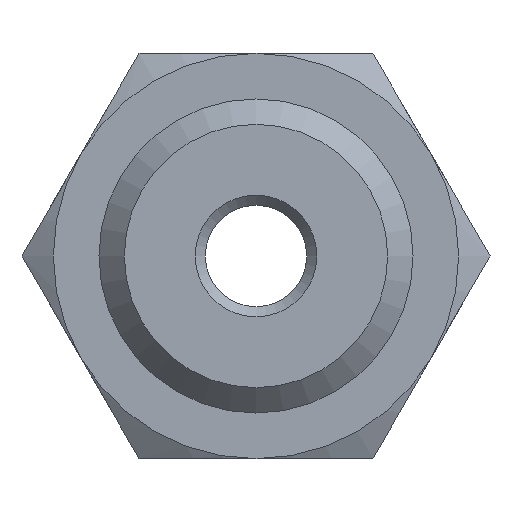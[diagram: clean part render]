
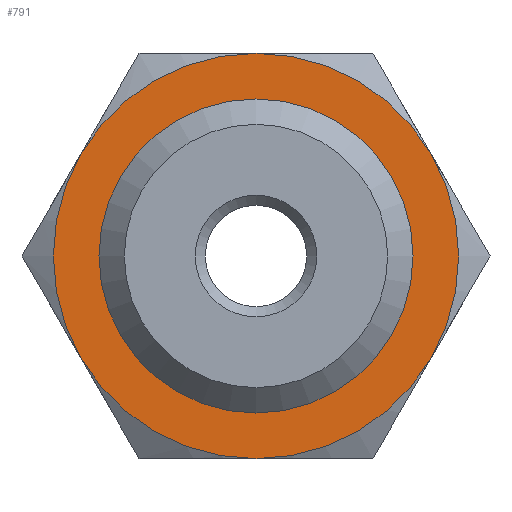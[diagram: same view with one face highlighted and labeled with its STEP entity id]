
A CAD part, front view. The second image highlights one B-rep face of the part: STEP entity #791.
In plain terms, the highlighted planar face has unit normal (0, -1, 0).
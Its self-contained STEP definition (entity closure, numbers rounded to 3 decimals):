
#74=CARTESIAN_POINT('',(-3.464,4.,2.0));
#75=VERTEX_POINT('',#74);
#149=CARTESIAN_POINT('',(0.,4.,4.));
#150=VERTEX_POINT('',#149);
#224=CARTESIAN_POINT('',(3.464,4.,2.));
#225=VERTEX_POINT('',#224);
#323=CARTESIAN_POINT('',(0.0,4.,-4.0));
#324=VERTEX_POINT('',#323);
#396=CARTESIAN_POINT('',(-3.464,4.,-2.));
#397=VERTEX_POINT('',#396);
#462=CARTESIAN_POINT('',(3.464,4.,-2.));
#463=VERTEX_POINT('',#462);
#603=CARTESIAN_POINT('',(0.0,4.,0.0));
#604=DIRECTION('',(0.0,1.0,0.0));
#605=DIRECTION('',(-1.0,0.0,0.0));
#606=AXIS2_PLACEMENT_3D('',#603,#604,#605);
#607=CIRCLE('',#606,4.);
#608=EDGE_CURVE('',#225,#463,#607,.T.);
#619=CARTESIAN_POINT('',(0.0,4.,0.0));
#620=DIRECTION('',(0.0,1.0,0.0));
#621=DIRECTION('',(-1.0,0.0,0.0));
#622=AXIS2_PLACEMENT_3D('',#619,#620,#621);
#623=CIRCLE('',#622,4.);
#624=EDGE_CURVE('',#150,#225,#623,.T.);
#637=CARTESIAN_POINT('',(0.0,4.,0.0));
#638=DIRECTION('',(0.0,1.0,0.0));
#639=DIRECTION('',(-1.0,0.0,0.0));
#640=AXIS2_PLACEMENT_3D('',#637,#638,#639);
#641=CIRCLE('',#640,4.);
#642=EDGE_CURVE('',#463,#324,#641,.T.);
#653=CARTESIAN_POINT('',(0.0,4.,0.0));
#654=DIRECTION('',(0.0,1.0,0.0));
#655=DIRECTION('',(-1.0,0.0,0.0));
#656=AXIS2_PLACEMENT_3D('',#653,#654,#655);
#657=CIRCLE('',#656,4.);
#658=EDGE_CURVE('',#75,#150,#657,.T.);
#671=CARTESIAN_POINT('',(0.0,4.,0.0));
#672=DIRECTION('',(0.0,1.0,0.0));
#673=DIRECTION('',(-1.0,0.0,0.0));
#674=AXIS2_PLACEMENT_3D('',#671,#672,#673);
#675=CIRCLE('',#674,4.);
#676=EDGE_CURVE('',#324,#397,#675,.T.);
#754=CARTESIAN_POINT('',(-2.,4.,0.0));
#755=VERTEX_POINT('',#754);
#756=CARTESIAN_POINT('',(0.0,4.,0.0));
#757=DIRECTION('',(0.0,1.0,0.0));
#758=DIRECTION('',(-1.0,0.0,0.0));
#759=AXIS2_PLACEMENT_3D('',#756,#757,#758);
#760=CIRCLE('',#759,2.);
#761=EDGE_CURVE('',#755,#755,#760,.T.);
#769=CARTESIAN_POINT('',(-3.,4.,0.0));
#770=DIRECTION('',(0.0,-1.0,0.0));
#771=DIRECTION('',(0.0,0.0,-1.0));
#772=AXIS2_PLACEMENT_3D('',#769,#770,#771);
#773=PLANE('',#772);
#774=CARTESIAN_POINT('',(0.0,4.,0.0));
#775=DIRECTION('',(0.0,1.0,0.0));
#776=DIRECTION('',(-1.0,0.0,0.0));
#777=AXIS2_PLACEMENT_3D('',#774,#775,#776);
#778=CIRCLE('',#777,4.);
#779=EDGE_CURVE('',#397,#75,#778,.T.);
#780=ORIENTED_EDGE('',*,*,#779,.F.);
#781=ORIENTED_EDGE('',*,*,#676,.F.);
#782=ORIENTED_EDGE('',*,*,#642,.F.);
#783=ORIENTED_EDGE('',*,*,#608,.F.);
#784=ORIENTED_EDGE('',*,*,#624,.F.);
#785=ORIENTED_EDGE('',*,*,#658,.F.);
#786=EDGE_LOOP('',(#780,#781,#782,#783,#784,#785));
#787=FACE_OUTER_BOUND('',#786,.T.);
#788=ORIENTED_EDGE('',*,*,#761,.T.);
#789=EDGE_LOOP('',(#788));
#790=FACE_BOUND('',#789,.T.);
#791=ADVANCED_FACE('',(#787,#790),#773,.T.);
